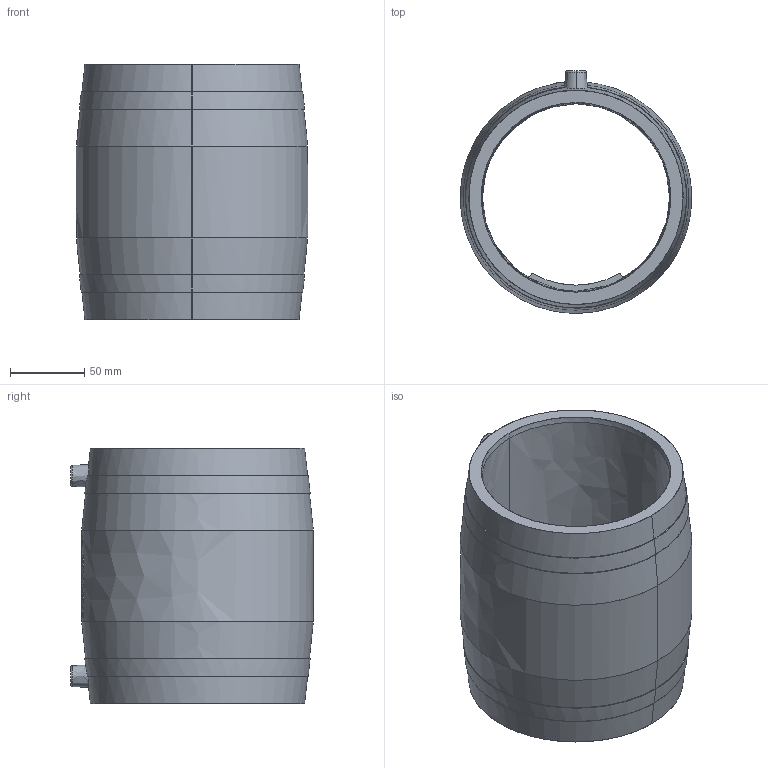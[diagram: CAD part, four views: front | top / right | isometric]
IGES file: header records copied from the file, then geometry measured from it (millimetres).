
Start section:  PTC IGES file: mb_d125_01.igs
Global section: file name: mb_d125_01.igs; native system: Pro/ENGINEER by Parametric Technology Corporation; preprocessor: 2011490; author: mtunjic; organization: Unknown; date: 20130805.164154; units: millimetre
Bounding box: 156 x 163.43 x 172 mm (x, y, z)
Surface area: 160928.8 mm2 (no closed solid volume)
Topology: 0 solids, 0 shells, 168 faces, 862 edges, 862 vertices
Faces by surface type: bspline 168
